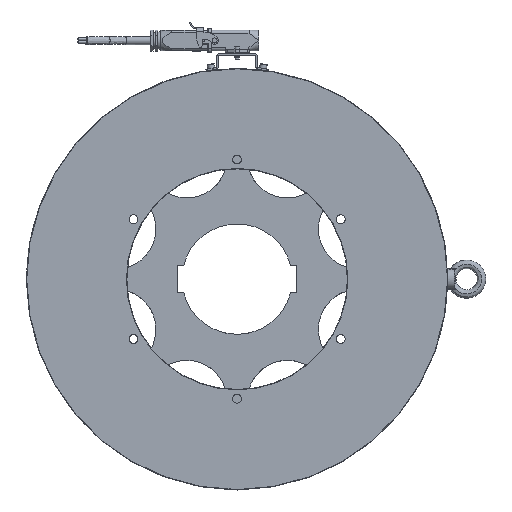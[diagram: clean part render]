
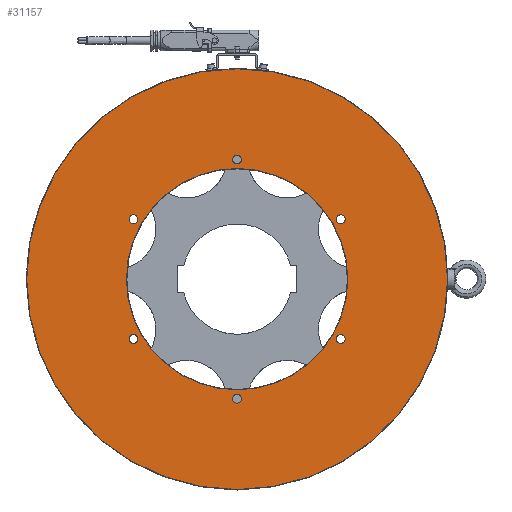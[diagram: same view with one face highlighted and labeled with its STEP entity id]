
A CAD part, left-side view. The second image highlights one B-rep face of the part: STEP entity #31157.
In plain terms, the highlighted planar face has unit normal (-1, 0, 0).
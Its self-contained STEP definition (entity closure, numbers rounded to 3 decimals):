
#435=FACE_BOUND('',#4548,.T.);
#436=FACE_BOUND('',#4549,.T.);
#437=FACE_BOUND('',#4550,.T.);
#438=FACE_BOUND('',#4551,.T.);
#439=FACE_BOUND('',#4552,.T.);
#440=FACE_BOUND('',#4553,.T.);
#441=FACE_BOUND('',#4554,.T.);
#1325=PLANE('',#33698);
#2830=FACE_OUTER_BOUND('',#4547,.T.);
#4547=EDGE_LOOP('',(#25753,#25754));
#4548=EDGE_LOOP('',(#25755));
#4549=EDGE_LOOP('',(#25756));
#4550=EDGE_LOOP('',(#25757));
#4551=EDGE_LOOP('',(#25758));
#4552=EDGE_LOOP('',(#25759));
#4553=EDGE_LOOP('',(#25760));
#4554=EDGE_LOOP('',(#25761));
#5938=CIRCLE('',#33699,248.);
#5939=CIRCLE('',#33700,248.);
#5940=CIRCLE('',#33701,5.25);
#5941=CIRCLE('',#33702,5.25);
#5942=CIRCLE('',#33703,5.25);
#5943=CIRCLE('',#33704,5.25);
#5944=CIRCLE('',#33705,5.25);
#5945=CIRCLE('',#33706,5.25);
#5946=CIRCLE('',#33707,130.5);
#13935=VERTEX_POINT('',#52039);
#13936=VERTEX_POINT('',#52040);
#13937=VERTEX_POINT('',#52043);
#13938=VERTEX_POINT('',#52045);
#13939=VERTEX_POINT('',#52047);
#13940=VERTEX_POINT('',#52049);
#13941=VERTEX_POINT('',#52051);
#13942=VERTEX_POINT('',#52053);
#13943=VERTEX_POINT('',#52055);
#18028=EDGE_CURVE('',#13935,#13936,#5938,.T.);
#18029=EDGE_CURVE('',#13936,#13935,#5939,.T.);
#18030=EDGE_CURVE('',#13937,#13937,#5940,.T.);
#18031=EDGE_CURVE('',#13938,#13938,#5941,.T.);
#18032=EDGE_CURVE('',#13939,#13939,#5942,.T.);
#18033=EDGE_CURVE('',#13940,#13940,#5943,.T.);
#18034=EDGE_CURVE('',#13941,#13941,#5944,.T.);
#18035=EDGE_CURVE('',#13942,#13942,#5945,.T.);
#18036=EDGE_CURVE('',#13943,#13943,#5946,.T.);
#25753=ORIENTED_EDGE('',*,*,#18028,.T.);
#25754=ORIENTED_EDGE('',*,*,#18029,.T.);
#25755=ORIENTED_EDGE('',*,*,#18030,.T.);
#25756=ORIENTED_EDGE('',*,*,#18031,.T.);
#25757=ORIENTED_EDGE('',*,*,#18032,.T.);
#25758=ORIENTED_EDGE('',*,*,#18033,.T.);
#25759=ORIENTED_EDGE('',*,*,#18034,.T.);
#25760=ORIENTED_EDGE('',*,*,#18035,.T.);
#25761=ORIENTED_EDGE('',*,*,#18036,.F.);
#31157=ADVANCED_FACE('',(#2830,#435,#436,#437,#438,#439,#440,#441),#1325,
 .T.);
#33698=AXIS2_PLACEMENT_3D('',#52038,#41269,#41270);
#33699=AXIS2_PLACEMENT_3D('',#52041,#41271,#41272);
#33700=AXIS2_PLACEMENT_3D('',#52042,#41273,#41274);
#33701=AXIS2_PLACEMENT_3D('',#52044,#41275,#41276);
#33702=AXIS2_PLACEMENT_3D('',#52046,#41277,#41278);
#33703=AXIS2_PLACEMENT_3D('',#52048,#41279,#41280);
#33704=AXIS2_PLACEMENT_3D('',#52050,#41281,#41282);
#33705=AXIS2_PLACEMENT_3D('',#52052,#41283,#41284);
#33706=AXIS2_PLACEMENT_3D('',#52054,#41285,#41286);
#33707=AXIS2_PLACEMENT_3D('',#52056,#41287,#41288);
#41269=DIRECTION('center_axis',(-1.,0.,0.));
#41270=DIRECTION('ref_axis',(0.,0.,
1.));
#41271=DIRECTION('center_axis',(-1.,0.,0.));
#41272=DIRECTION('ref_axis',(0.,1.,0.));
#41273=DIRECTION('center_axis',(-1.,0.,0.));
#41274=DIRECTION('ref_axis',(0.,1.,0.));
#41275=DIRECTION('center_axis',(1.,0.,0.));
#41276=DIRECTION('ref_axis',(0.,0.,
-1.));
#41277=DIRECTION('center_axis',(1.,0.,0.));
#41278=DIRECTION('ref_axis',(0.,0.,
-1.));
#41279=DIRECTION('center_axis',(1.,0.,0.));
#41280=DIRECTION('ref_axis',(0.,0.,
-1.));
#41281=DIRECTION('center_axis',(1.,0.,0.));
#41282=DIRECTION('ref_axis',(0.,0.,
-1.));
#41283=DIRECTION('center_axis',(1.,0.,0.));
#41284=DIRECTION('ref_axis',(0.,0.,
-1.));
#41285=DIRECTION('center_axis',(1.,0.,0.));
#41286=DIRECTION('ref_axis',(0.,0.,
-1.));
#41287=DIRECTION('center_axis',(-1.,0.,0.));
#41288=DIRECTION('ref_axis',(0.,-1.,0.));
#52038=CARTESIAN_POINT('Origin',(-61.926,189.,0.));
#52039=CARTESIAN_POINT('',(-61.926,248.,0.));
#52040=CARTESIAN_POINT('',(-61.926,-248.,0.));
#52041=CARTESIAN_POINT('Origin',(-61.926,0.,
0.));
#52042=CARTESIAN_POINT('Origin',(-61.926,0.,
0.));
#52043=CARTESIAN_POINT('',(-61.926,122.11,-65.25));
#52044=CARTESIAN_POINT('Origin',(-61.926,122.11,-70.5));
#52045=CARTESIAN_POINT('',(-61.926,-122.11,-65.25));
#52046=CARTESIAN_POINT('Origin',(-61.926,-122.11,-70.5));
#52047=CARTESIAN_POINT('',(-61.926,0.,146.25));
#52048=CARTESIAN_POINT('Origin',(-61.926,0.,
141.));
#52049=CARTESIAN_POINT('',(-61.926,-122.11,75.75));
#52050=CARTESIAN_POINT('Origin',(-61.926,-122.11,70.5));
#52051=CARTESIAN_POINT('',(-61.926,0.,-135.75));
#52052=CARTESIAN_POINT('Origin',(-61.926,0.,
-141.));
#52053=CARTESIAN_POINT('',(-61.926,122.11,75.75));
#52054=CARTESIAN_POINT('Origin',(-61.926,122.11,70.5));
#52055=CARTESIAN_POINT('',(-61.926,130.5,0.));
#52056=CARTESIAN_POINT('Origin',(-61.926,0.,
0.));
